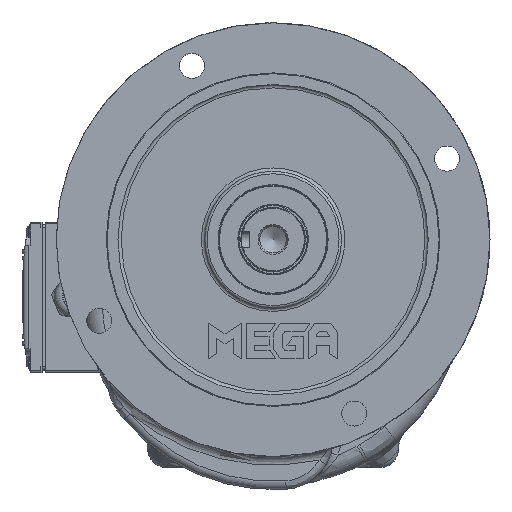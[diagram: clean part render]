
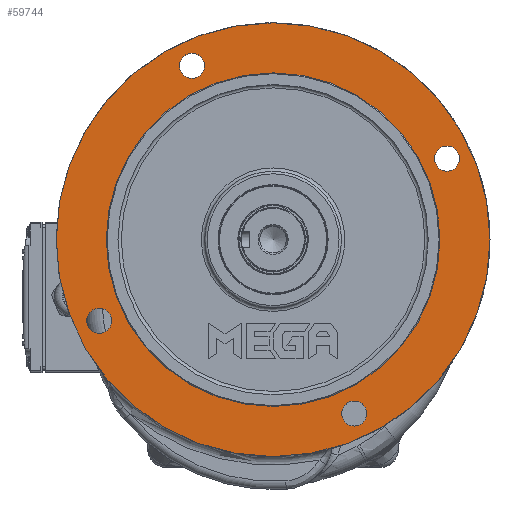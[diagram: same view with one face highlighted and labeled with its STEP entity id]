
A CAD part, top view. The second image highlights one B-rep face of the part: STEP entity #59744.
In plain terms, the highlighted planar face has unit normal (0, 0, 1).
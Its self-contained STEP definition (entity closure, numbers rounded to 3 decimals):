
#556=FACE_BOUND('',#13292,.T.);
#557=FACE_BOUND('',#13293,.T.);
#558=FACE_BOUND('',#13294,.T.);
#559=FACE_BOUND('',#13295,.T.);
#560=FACE_BOUND('',#13296,.T.);
#1112=PLANE('',#64536);
#9521=FACE_OUTER_BOUND('',#13291,.T.);
#13291=EDGE_LOOP('',(#42519));
#13292=EDGE_LOOP('',(#42520));
#13293=EDGE_LOOP('',(#42521));
#13294=EDGE_LOOP('',(#42522));
#13295=EDGE_LOOP('',(#42523));
#13296=EDGE_LOOP('',(#42524));
#17137=CIRCLE('',#64537,130.);
#17138=CIRCLE('',#64538,7.5);
#17139=CIRCLE('',#64539,7.5);
#17140=CIRCLE('',#64540,7.5);
#17141=CIRCLE('',#64541,7.5);
#17142=CIRCLE('',#64542,100.);
#24153=VERTEX_POINT('',#101102);
#24154=VERTEX_POINT('',#101104);
#24155=VERTEX_POINT('',#101106);
#24156=VERTEX_POINT('',#101108);
#24157=VERTEX_POINT('',#101110);
#24158=VERTEX_POINT('',#101112);
#30679=EDGE_CURVE('',#24153,#24153,#17137,.T.);
#30680=EDGE_CURVE('',#24154,#24154,#17138,.T.);
#30681=EDGE_CURVE('',#24155,#24155,#17139,.T.);
#30682=EDGE_CURVE('',#24156,#24156,#17140,.T.);
#30683=EDGE_CURVE('',#24157,#24157,#17141,.T.);
#30684=EDGE_CURVE('',#24158,#24158,#17142,.T.);
#42519=ORIENTED_EDGE('',*,*,#30679,.F.);
#42520=ORIENTED_EDGE('',*,*,#30680,.F.);
#42521=ORIENTED_EDGE('',*,*,#30681,.F.);
#42522=ORIENTED_EDGE('',*,*,#30682,.F.);
#42523=ORIENTED_EDGE('',*,*,#30683,.F.);
#42524=ORIENTED_EDGE('',*,*,#30684,.F.);
#59744=ADVANCED_FACE('',(#9521,#556,#557,#558,#559,#560),#1112,.T.);
#64536=AXIS2_PLACEMENT_3D('',#101101,#74396,#74397);
#64537=AXIS2_PLACEMENT_3D('',#101103,#74398,#74399);
#64538=AXIS2_PLACEMENT_3D('',#101105,#74400,#74401);
#64539=AXIS2_PLACEMENT_3D('',#101107,#74402,#74403);
#64540=AXIS2_PLACEMENT_3D('',#101109,#74404,#74405);
#64541=AXIS2_PLACEMENT_3D('',#101111,#74406,#74407);
#64542=AXIS2_PLACEMENT_3D('',#101113,#74408,#74409);
#74396=DIRECTION('center_axis',(0.,0.,
1.));
#74397=DIRECTION('ref_axis',(1.,0.,0.));
#74398=DIRECTION('center_axis',(0.,0.,
-1.));
#74399=DIRECTION('ref_axis',(1.,0.,0.));
#74400=DIRECTION('center_axis',(0.,0.,
1.));
#74401=DIRECTION('ref_axis',(0.,-1.,0.));
#74402=DIRECTION('center_axis',(0.,0.,
1.));
#74403=DIRECTION('ref_axis',(1.,0.,0.));
#74404=DIRECTION('center_axis',(0.,0.,
1.));
#74405=DIRECTION('ref_axis',(0.,1.,0.));
#74406=DIRECTION('center_axis',(0.,0.,
1.));
#74407=DIRECTION('ref_axis',(-1.,0.,0.));
#74408=DIRECTION('center_axis',(0.,0.,
1.));
#74409=DIRECTION('ref_axis',(-1.,0.,0.));
#101101=CARTESIAN_POINT('Origin',(84.063,47.733,47.));
#101102=CARTESIAN_POINT('',(-45.937,47.733,47.));
#101103=CARTESIAN_POINT('Origin',(84.063,47.733,47.));
#101104=CARTESIAN_POINT('',(-20.163,6.632,47.));
#101105=CARTESIAN_POINT('Origin',(-20.163,-0.868,
47.));
#101106=CARTESIAN_POINT('',(125.164,-56.492,47.));
#101107=CARTESIAN_POINT('Origin',(132.664,-56.492,47.));
#101108=CARTESIAN_POINT('',(188.288,88.834,47.));
#101109=CARTESIAN_POINT('Origin',(188.288,96.334,47.));
#101110=CARTESIAN_POINT('',(42.962,151.958,47.));
#101111=CARTESIAN_POINT('Origin',(35.462,151.958,47.));
#101112=CARTESIAN_POINT('',(184.063,47.733,47.));
#101113=CARTESIAN_POINT('Origin',(84.063,47.733,47.));
